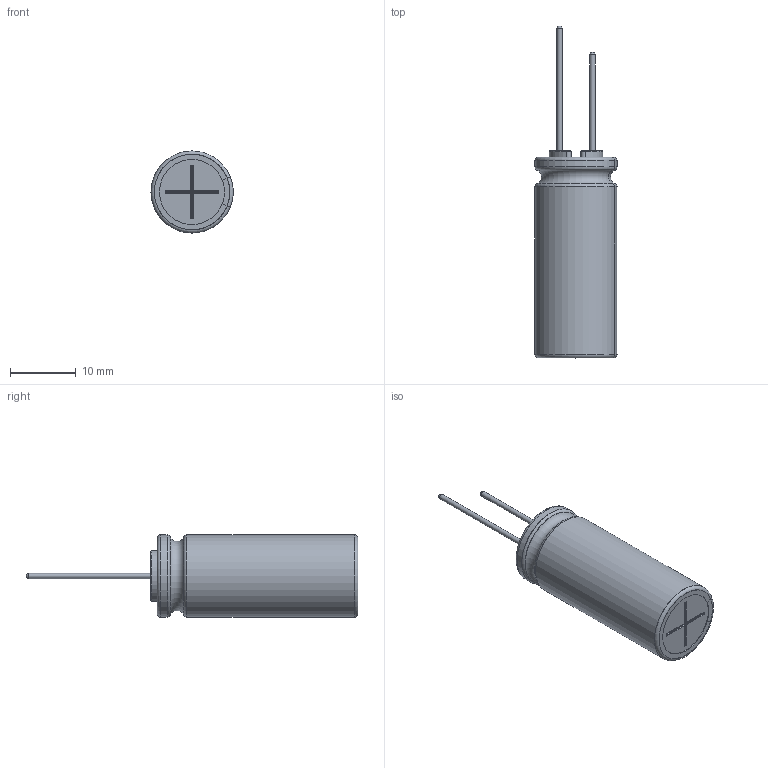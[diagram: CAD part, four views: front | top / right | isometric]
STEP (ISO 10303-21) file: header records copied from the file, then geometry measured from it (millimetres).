
FILE_DESCRIPTION(/* description */ (''),/* implementation_level */ '2;1');
FILE_NAME(/* name */ '12.5x31.5_Lead.stp',/* time_stamp */ '2017-09-05T14:27:16+09:00',/* author */ (''),/* organization */ (''),/* preprocessor_version */ 'ST-DEVELOPER v16',/* originating_system */ 'SIEMENS PLM Software NX 11.0',/* authorisation */ '');
FILE_SCHEMA (('AUTOMOTIVE_DESIGN { 1 0 10303 214 3 1 1 1 }'));
Length unit declared in the file: millimetre
Products named in the file (1): 12.5x31.5_Lead_0
Bounding box: 12.48 x 50.5 x 12.5 mm (x, y, z)
Volume: 3710.2 mm3; surface area: 4125.3 mm2
Topology: 3 solids, 3 shells, 132 faces, 326 edges, 203 vertices
Faces by surface type: cylinder 50, torus 35, plane 33, sphere 6, bspline 6, extrusion 2
Full cylindrical faces by diameter (mm): 0.8 x2, 12.3 x2
Entity records: 5211 total; most frequent: CARTESIAN_POINT 1361, DIRECTION 748, ORIENTED_EDGE 624, EDGE_CURVE 312, AXIS2_PLACEMENT_3D 311, VERTEX_POINT 200, CIRCLE 174, EDGE_LOOP 146
